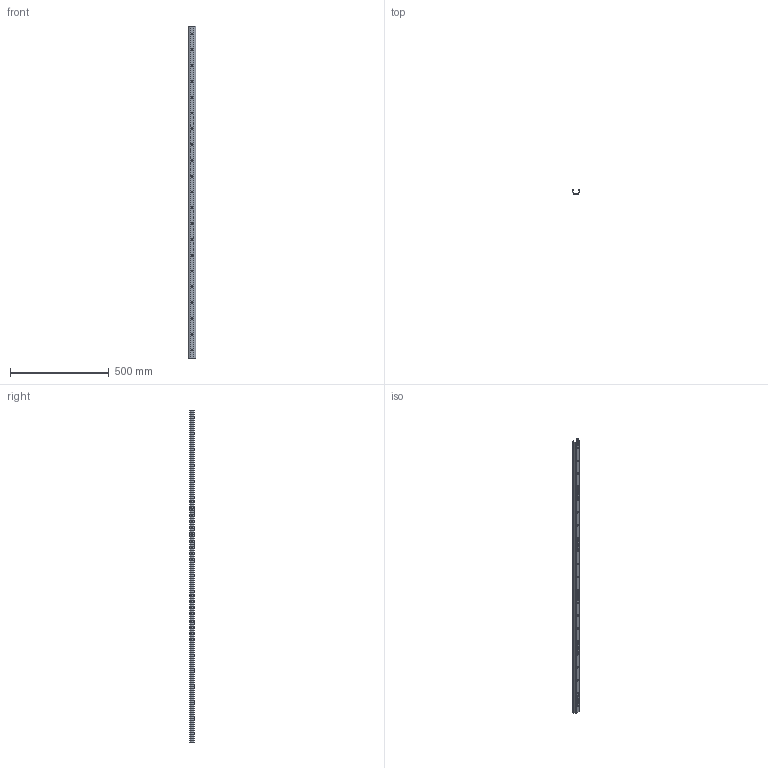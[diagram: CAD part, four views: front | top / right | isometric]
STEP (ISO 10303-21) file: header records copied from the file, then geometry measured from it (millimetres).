
FILE_DESCRIPTION(('STEP AP214'),'1');
FILE_NAME('rail_tex40-1680.stp','2019-03-08T08:33:25',('TraceParts'),('TraceParts S.A.'),'Spatial InterOp 3D',' ',' ');
FILE_SCHEMA(('automotive_design'));
Length unit declared in the file: millimetre
Products named in the file (1): rail_tex40-1680
Bounding box: 39.53 x 21 x 1680 mm (x, y, z)
Volume: 328463.5 mm3; surface area: 231521.5 mm2
Topology: 1 solids, 1 shells, 387 faces, 1005 edges, 670 vertices
Faces by surface type: plane 271, bspline 62, cylinder 54
Entity records: 24440 total; most frequent: CARTESIAN_POINT 12045, ORIENTED_EDGE 2010, DIRECTION 1641, EDGE_CURVE 1005, LINE 773, VECTOR 773, VERTEX_POINT 670, EDGE_LOOP 479
